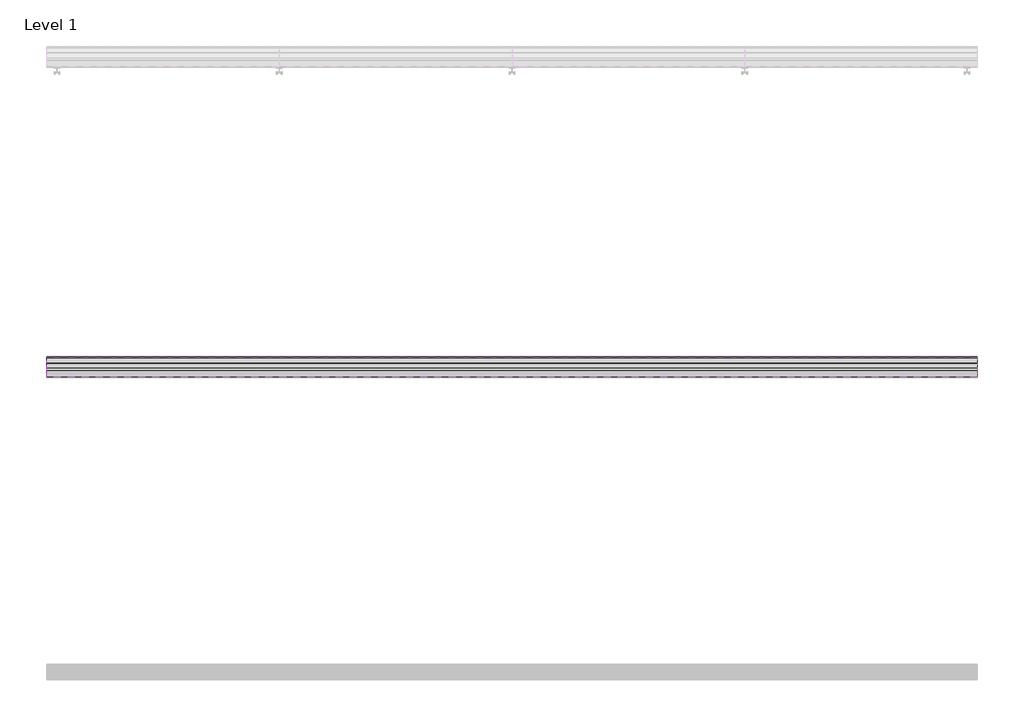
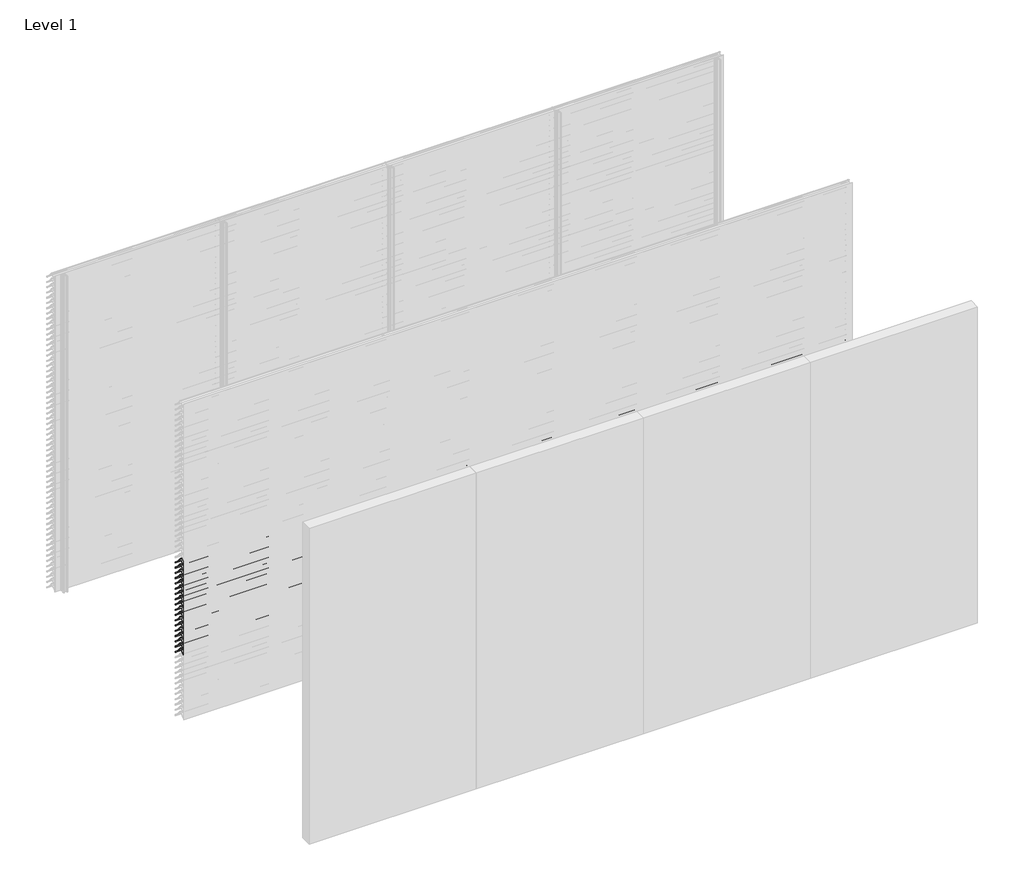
# One storey, part 39 of 173: 18 proxies.
"""IFC4 building model written with IfcOpenShell, lengths in millimetres."""

from ifc_helpers import new_model, si_unit, point, frame, frame_2d, origin, place, context, project, spatial, polyline, circle_curve, trimmed, segment, composite_curve, outline, extrude, element, save

model = new_model("IFC4")

# Units and contexts
model_context = context("Model", 3, world=origin())
ifc_project = project(units=[si_unit("LENGTHUNIT", "METRE", prefix="MILLI")], contexts=[model_context])

# Site, building, storey
site = spatial("IfcSite", under=ifc_project)
building = spatial("IfcBuilding", under=site)
storey = spatial("IfcBuildingStorey", under=building, Name="Level 1", Elevation=0.0)

# Proxies
placement = place(None, origin())
element("IfcBuildingElementProxy", 1, Name="Wall Sweeps", at=placement, inside=storey, context=model_context, shape_type="SweptSolid", body=[
    extrude(outline(composite_curve([segment(polyline([(-43998.0, 1459.1474905), (-43998.0, 1461.6227417)]), True, "CONTINUOUS"), segment(trimmed(circle_curve(frame_2d((-43951.2682172, 1416.2200208)), 65.1557103), [point((-43998.0, 1461.6227417))], [point((-43954.4014323, 1481.3003524))], False, "CARTESIAN"), True, "CONTINUOUS"), segment(polyline([(-43954.4014323, 1481.3003524), (-43934.8315836, 1481.3003524)]), True, "CONTINUOUS"), segment(trimmed(circle_curve(frame_2d((-43732.7329489, 1628.5533172)), 250.0545817), [point((-43934.8315836, 1481.3003524))], [point((-43941.4452143, 1490.8344583))], False, "CARTESIAN"), True, "CONTINUOUS"), segment(trimmed(circle_curve(frame_2d((-43953.2981792, 1485.1737835)), 13.1352966), [point((-43941.4452143, 1490.8344583))], [point((-43953.8171475, 1498.298824))], True, "CARTESIAN"), True, "CONTINUOUS"), segment(polyline([(-43953.8171475, 1498.298824), (-43953.8171475, 1500.0)]), True, "CONTINUOUS"), segment(trimmed(circle_curve(frame_2d((-43953.2981792, 1485.1737835)), 14.8352966), [point((-43953.8171475, 1500.0))], [point((-43939.9637661, 1491.6760487))], False, "CARTESIAN"), True, "CONTINUOUS"), segment(trimmed(circle_curve(frame_2d((-43732.7329489, 1628.5533172)), 248.3545817), [point((-43939.9637661, 1491.6760487))], [point((-43873.8787895, 1424.2059416))], True, "CARTESIAN"), True, "CONTINUOUS"), segment(trimmed(circle_curve(frame_2d((-43883.8147537, 1411.6649442)), 16.0), [point((-43873.8787895, 1424.2059416))], [point((-43867.8648347, 1410.4))], False, "CARTESIAN"), True, "CONTINUOUS"), segment(polyline([(-43867.8648347, 1410.4), (-43869.6712069, 1410.4)]), True, "CONTINUOUS"), segment(trimmed(circle_curve(frame_2d((-43883.8147537, 1411.6649442)), 14.2), [point((-43869.6712069, 1410.4))], [point((-43874.9518628, 1422.7594998))], True, "CARTESIAN"), True, "CONTINUOUS"), segment(trimmed(circle_curve(frame_2d((-43732.7329489, 1628.5533172)), 250.1545817), [point((-43874.9518628, 1422.7594998))], [point((-43933.7064024, 1479.6003524))], False, "CARTESIAN"), True, "CONTINUOUS"), segment(polyline([(-43933.7064024, 1479.6003524), (-43954.3602632, 1479.6003524)]), True, "CONTINUOUS"), segment(trimmed(circle_curve(frame_2d((-43951.2682172, 1416.2200208)), 63.4557103), [point((-43954.3602632, 1479.6003524))], [point((-43998.0, 1459.1474905))], True, "CARTESIAN"), True, "CONTINUOUS")], self_intersect=False)), frame((0.0, 0.0, 0.0), z_axis=(1.0, 0.0, 0.0), x_axis=(0.0, 1.0, 0.0)), (0.0, 0.0, 1.0), 6000.0),
])
element("IfcBuildingElementProxy", 2, Name="Wall Sweeps", at=placement, inside=storey, context=model_context, shape_type="SweptSolid", body=[
    extrude(outline(composite_curve([segment(polyline([(-43998.0, 1409.1474905), (-43998.0, 1411.6227417)]), True, "CONTINUOUS"), segment(trimmed(circle_curve(frame_2d((-43951.2682172, 1366.2200208)), 65.1557103), [point((-43998.0, 1411.6227417))], [point((-43954.4014323, 1431.3003524))], False, "CARTESIAN"), True, "CONTINUOUS"), segment(polyline([(-43954.4014323, 1431.3003524), (-43934.8315836, 1431.3003524)]), True, "CONTINUOUS"), segment(trimmed(circle_curve(frame_2d((-43732.7329489, 1578.5533172)), 250.0545817), [point((-43934.8315836, 1431.3003524))], [point((-43941.4452143, 1440.8344583))], False, "CARTESIAN"), True, "CONTINUOUS"), segment(trimmed(circle_curve(frame_2d((-43953.2981792, 1435.1737835)), 13.1352966), [point((-43941.4452143, 1440.8344583))], [point((-43953.8171475, 1448.298824))], True, "CARTESIAN"), True, "CONTINUOUS"), segment(polyline([(-43953.8171475, 1448.298824), (-43953.8171475, 1450.0)]), True, "CONTINUOUS"), segment(trimmed(circle_curve(frame_2d((-43953.2981792, 1435.1737835)), 14.8352966), [point((-43953.8171475, 1450.0))], [point((-43939.9637661, 1441.6760487))], False, "CARTESIAN"), True, "CONTINUOUS"), segment(trimmed(circle_curve(frame_2d((-43732.7329489, 1578.5533172)), 248.3545817), [point((-43939.9637661, 1441.6760487))], [point((-43873.8787895, 1374.2059416))], True, "CARTESIAN"), True, "CONTINUOUS"), segment(trimmed(circle_curve(frame_2d((-43883.8147537, 1361.6649442)), 16.0), [point((-43873.8787895, 1374.2059416))], [point((-43867.8648347, 1360.4))], False, "CARTESIAN"), True, "CONTINUOUS"), segment(polyline([(-43867.8648347, 1360.4), (-43869.6712069, 1360.4)]), True, "CONTINUOUS"), segment(trimmed(circle_curve(frame_2d((-43883.8147537, 1361.6649442)), 14.2), [point((-43869.6712069, 1360.4))], [point((-43874.9518628, 1372.7594998))], True, "CARTESIAN"), True, "CONTINUOUS"), segment(trimmed(circle_curve(frame_2d((-43732.7329489, 1578.5533172)), 250.1545817), [point((-43874.9518628, 1372.7594998))], [point((-43933.7064024, 1429.6003524))], False, "CARTESIAN"), True, "CONTINUOUS"), segment(polyline([(-43933.7064024, 1429.6003524), (-43954.3602632, 1429.6003524)]), True, "CONTINUOUS"), segment(trimmed(circle_curve(frame_2d((-43951.2682172, 1366.2200208)), 63.4557103), [point((-43954.3602632, 1429.6003524))], [point((-43998.0, 1409.1474905))], True, "CARTESIAN"), True, "CONTINUOUS")], self_intersect=False)), frame((0.0, 0.0, 0.0), z_axis=(1.0, 0.0, 0.0), x_axis=(0.0, 1.0, 0.0)), (0.0, 0.0, 1.0), 6000.0),
])
element("IfcBuildingElementProxy", 3, Name="Wall Sweeps", at=placement, inside=storey, context=model_context, shape_type="SweptSolid", body=[
    extrude(outline(composite_curve([segment(polyline([(-43998.0, 1359.1474905), (-43998.0, 1361.6227417)]), True, "CONTINUOUS"), segment(trimmed(circle_curve(frame_2d((-43951.2682172, 1316.2200208)), 65.1557103), [point((-43998.0, 1361.6227417))], [point((-43954.4014323, 1381.3003524))], False, "CARTESIAN"), True, "CONTINUOUS"), segment(polyline([(-43954.4014323, 1381.3003524), (-43934.8315836, 1381.3003524)]), True, "CONTINUOUS"), segment(trimmed(circle_curve(frame_2d((-43732.7329489, 1528.5533172)), 250.0545817), [point((-43934.8315836, 1381.3003524))], [point((-43941.4452143, 1390.8344583))], False, "CARTESIAN"), True, "CONTINUOUS"), segment(trimmed(circle_curve(frame_2d((-43953.2981792, 1385.1737835)), 13.1352966), [point((-43941.4452143, 1390.8344583))], [point((-43953.8171475, 1398.298824))], True, "CARTESIAN"), True, "CONTINUOUS"), segment(polyline([(-43953.8171475, 1398.298824), (-43953.8171475, 1400.0)]), True, "CONTINUOUS"), segment(trimmed(circle_curve(frame_2d((-43953.2981792, 1385.1737835)), 14.8352966), [point((-43953.8171475, 1400.0))], [point((-43939.9637661, 1391.6760487))], False, "CARTESIAN"), True, "CONTINUOUS"), segment(trimmed(circle_curve(frame_2d((-43732.7329489, 1528.5533172)), 248.3545817), [point((-43939.9637661, 1391.6760487))], [point((-43873.8787895, 1324.2059416))], True, "CARTESIAN"), True, "CONTINUOUS"), segment(trimmed(circle_curve(frame_2d((-43883.8147537, 1311.6649442)), 16.0), [point((-43873.8787895, 1324.2059416))], [point((-43867.8648347, 1310.4))], False, "CARTESIAN"), True, "CONTINUOUS"), segment(polyline([(-43867.8648347, 1310.4), (-43869.6712069, 1310.4)]), True, "CONTINUOUS"), segment(trimmed(circle_curve(frame_2d((-43883.8147537, 1311.6649442)), 14.2), [point((-43869.6712069, 1310.4))], [point((-43874.9518628, 1322.7594998))], True, "CARTESIAN"), True, "CONTINUOUS"), segment(trimmed(circle_curve(frame_2d((-43732.7329489, 1528.5533172)), 250.1545817), [point((-43874.9518628, 1322.7594998))], [point((-43933.7064024, 1379.6003524))], False, "CARTESIAN"), True, "CONTINUOUS"), segment(polyline([(-43933.7064024, 1379.6003524), (-43954.3602632, 1379.6003524)]), True, "CONTINUOUS"), segment(trimmed(circle_curve(frame_2d((-43951.2682172, 1316.2200208)), 63.4557103), [point((-43954.3602632, 1379.6003524))], [point((-43998.0, 1359.1474905))], True, "CARTESIAN"), True, "CONTINUOUS")], self_intersect=False)), frame((0.0, 0.0, 0.0), z_axis=(1.0, 0.0, 0.0), x_axis=(0.0, 1.0, 0.0)), (0.0, 0.0, 1.0), 6000.0),
])
element("IfcBuildingElementProxy", 4, Name="Wall Sweeps", at=placement, inside=storey, context=model_context, shape_type="SweptSolid", body=[
    extrude(outline(composite_curve([segment(polyline([(-43998.0, 1309.1474905), (-43998.0, 1311.6227417)]), True, "CONTINUOUS"), segment(trimmed(circle_curve(frame_2d((-43951.2682172, 1266.2200208)), 65.1557103), [point((-43998.0, 1311.6227417))], [point((-43954.4014323, 1331.3003524))], False, "CARTESIAN"), True, "CONTINUOUS"), segment(polyline([(-43954.4014323, 1331.3003524), (-43934.8315836, 1331.3003524)]), True, "CONTINUOUS"), segment(trimmed(circle_curve(frame_2d((-43732.7329489, 1478.5533172)), 250.0545817), [point((-43934.8315836, 1331.3003524))], [point((-43941.4452143, 1340.8344583))], False, "CARTESIAN"), True, "CONTINUOUS"), segment(trimmed(circle_curve(frame_2d((-43953.2981792, 1335.1737835)), 13.1352966), [point((-43941.4452143, 1340.8344583))], [point((-43953.8171475, 1348.298824))], True, "CARTESIAN"), True, "CONTINUOUS"), segment(polyline([(-43953.8171475, 1348.298824), (-43953.8171475, 1350.0)]), True, "CONTINUOUS"), segment(trimmed(circle_curve(frame_2d((-43953.2981792, 1335.1737835)), 14.8352966), [point((-43953.8171475, 1350.0))], [point((-43939.9637661, 1341.6760487))], False, "CARTESIAN"), True, "CONTINUOUS"), segment(trimmed(circle_curve(frame_2d((-43732.7329489, 1478.5533172)), 248.3545817), [point((-43939.9637661, 1341.6760487))], [point((-43873.8787895, 1274.2059416))], True, "CARTESIAN"), True, "CONTINUOUS"), segment(trimmed(circle_curve(frame_2d((-43883.8147537, 1261.6649442)), 16.0), [point((-43873.8787895, 1274.2059416))], [point((-43867.8648347, 1260.4))], False, "CARTESIAN"), True, "CONTINUOUS"), segment(polyline([(-43867.8648347, 1260.4), (-43869.6712069, 1260.4)]), True, "CONTINUOUS"), segment(trimmed(circle_curve(frame_2d((-43883.8147537, 1261.6649442)), 14.2), [point((-43869.6712069, 1260.4))], [point((-43874.9518628, 1272.7594998))], True, "CARTESIAN"), True, "CONTINUOUS"), segment(trimmed(circle_curve(frame_2d((-43732.7329489, 1478.5533172)), 250.1545817), [point((-43874.9518628, 1272.7594998))], [point((-43933.7064024, 1329.6003524))], False, "CARTESIAN"), True, "CONTINUOUS"), segment(polyline([(-43933.7064024, 1329.6003524), (-43954.3602632, 1329.6003524)]), True, "CONTINUOUS"), segment(trimmed(circle_curve(frame_2d((-43951.2682172, 1266.2200208)), 63.4557103), [point((-43954.3602632, 1329.6003524))], [point((-43998.0, 1309.1474905))], True, "CARTESIAN"), True, "CONTINUOUS")], self_intersect=False)), frame((0.0, 0.0, 0.0), z_axis=(1.0, 0.0, 0.0), x_axis=(0.0, 1.0, 0.0)), (0.0, 0.0, 1.0), 6000.0),
])
element("IfcBuildingElementProxy", 5, Name="Wall Sweeps", at=placement, inside=storey, context=model_context, shape_type="SweptSolid", body=[
    extrude(outline(composite_curve([segment(polyline([(-43998.0, 1259.1474905), (-43998.0, 1261.6227417)]), True, "CONTINUOUS"), segment(trimmed(circle_curve(frame_2d((-43951.2682172, 1216.2200208)), 65.1557103), [point((-43998.0, 1261.6227417))], [point((-43954.4014323, 1281.3003524))], False, "CARTESIAN"), True, "CONTINUOUS"), segment(polyline([(-43954.4014323, 1281.3003524), (-43934.8315836, 1281.3003524)]), True, "CONTINUOUS"), segment(trimmed(circle_curve(frame_2d((-43732.7329489, 1428.5533172)), 250.0545817), [point((-43934.8315836, 1281.3003524))], [point((-43941.4452143, 1290.8344583))], False, "CARTESIAN"), True, "CONTINUOUS"), segment(trimmed(circle_curve(frame_2d((-43953.2981792, 1285.1737835)), 13.1352966), [point((-43941.4452143, 1290.8344583))], [point((-43953.8171475, 1298.298824))], True, "CARTESIAN"), True, "CONTINUOUS"), segment(polyline([(-43953.8171475, 1298.298824), (-43953.8171475, 1300.0)]), True, "CONTINUOUS"), segment(trimmed(circle_curve(frame_2d((-43953.2981792, 1285.1737835)), 14.8352966), [point((-43953.8171475, 1300.0))], [point((-43939.9637661, 1291.6760487))], False, "CARTESIAN"), True, "CONTINUOUS"), segment(trimmed(circle_curve(frame_2d((-43732.7329489, 1428.5533172)), 248.3545817), [point((-43939.9637661, 1291.6760487))], [point((-43873.8787895, 1224.2059416))], True, "CARTESIAN"), True, "CONTINUOUS"), segment(trimmed(circle_curve(frame_2d((-43883.8147537, 1211.6649442)), 16.0), [point((-43873.8787895, 1224.2059416))], [point((-43867.8648347, 1210.4))], False, "CARTESIAN"), True, "CONTINUOUS"), segment(polyline([(-43867.8648347, 1210.4), (-43869.6712069, 1210.4)]), True, "CONTINUOUS"), segment(trimmed(circle_curve(frame_2d((-43883.8147537, 1211.6649442)), 14.2), [point((-43869.6712069, 1210.4))], [point((-43874.9518628, 1222.7594998))], True, "CARTESIAN"), True, "CONTINUOUS"), segment(trimmed(circle_curve(frame_2d((-43732.7329489, 1428.5533172)), 250.1545817), [point((-43874.9518628, 1222.7594998))], [point((-43933.7064024, 1279.6003524))], False, "CARTESIAN"), True, "CONTINUOUS"), segment(polyline([(-43933.7064024, 1279.6003524), (-43954.3602632, 1279.6003524)]), True, "CONTINUOUS"), segment(trimmed(circle_curve(frame_2d((-43951.2682172, 1216.2200208)), 63.4557103), [point((-43954.3602632, 1279.6003524))], [point((-43998.0, 1259.1474905))], True, "CARTESIAN"), True, "CONTINUOUS")], self_intersect=False)), frame((0.0, 0.0, 0.0), z_axis=(1.0, 0.0, 0.0), x_axis=(0.0, 1.0, 0.0)), (0.0, 0.0, 1.0), 6000.0),
])
element("IfcBuildingElementProxy", 6, Name="Wall Sweeps", at=placement, inside=storey, context=model_context, shape_type="SweptSolid", body=[
    extrude(outline(composite_curve([segment(polyline([(-43998.0, 1209.1474905), (-43998.0, 1211.6227417)]), True, "CONTINUOUS"), segment(trimmed(circle_curve(frame_2d((-43951.2682172, 1166.2200208)), 65.1557103), [point((-43998.0, 1211.6227417))], [point((-43954.4014323, 1231.3003524))], False, "CARTESIAN"), True, "CONTINUOUS"), segment(polyline([(-43954.4014323, 1231.3003524), (-43934.8315836, 1231.3003524)]), True, "CONTINUOUS"), segment(trimmed(circle_curve(frame_2d((-43732.7329489, 1378.5533172)), 250.0545817), [point((-43934.8315836, 1231.3003524))], [point((-43941.4452143, 1240.8344583))], False, "CARTESIAN"), True, "CONTINUOUS"), segment(trimmed(circle_curve(frame_2d((-43953.2981792, 1235.1737835)), 13.1352966), [point((-43941.4452143, 1240.8344583))], [point((-43953.8171475, 1248.298824))], True, "CARTESIAN"), True, "CONTINUOUS"), segment(polyline([(-43953.8171475, 1248.298824), (-43953.8171475, 1250.0)]), True, "CONTINUOUS"), segment(trimmed(circle_curve(frame_2d((-43953.2981792, 1235.1737835)), 14.8352966), [point((-43953.8171475, 1250.0))], [point((-43939.9637661, 1241.6760487))], False, "CARTESIAN"), True, "CONTINUOUS"), segment(trimmed(circle_curve(frame_2d((-43732.7329489, 1378.5533172)), 248.3545817), [point((-43939.9637661, 1241.6760487))], [point((-43873.8787895, 1174.2059416))], True, "CARTESIAN"), True, "CONTINUOUS"), segment(trimmed(circle_curve(frame_2d((-43883.8147537, 1161.6649442)), 16.0), [point((-43873.8787895, 1174.2059416))], [point((-43867.8648347, 1160.4))], False, "CARTESIAN"), True, "CONTINUOUS"), segment(polyline([(-43867.8648347, 1160.4), (-43869.6712069, 1160.4)]), True, "CONTINUOUS"), segment(trimmed(circle_curve(frame_2d((-43883.8147537, 1161.6649442)), 14.2), [point((-43869.6712069, 1160.4))], [point((-43874.9518628, 1172.7594998))], True, "CARTESIAN"), True, "CONTINUOUS"), segment(trimmed(circle_curve(frame_2d((-43732.7329489, 1378.5533172)), 250.1545817), [point((-43874.9518628, 1172.7594998))], [point((-43933.7064024, 1229.6003524))], False, "CARTESIAN"), True, "CONTINUOUS"), segment(polyline([(-43933.7064024, 1229.6003524), (-43954.3602632, 1229.6003524)]), True, "CONTINUOUS"), segment(trimmed(circle_curve(frame_2d((-43951.2682172, 1166.2200208)), 63.4557103), [point((-43954.3602632, 1229.6003524))], [point((-43998.0, 1209.1474905))], True, "CARTESIAN"), True, "CONTINUOUS")], self_intersect=False)), frame((0.0, 0.0, 0.0), z_axis=(1.0, 0.0, 0.0), x_axis=(0.0, 1.0, 0.0)), (0.0, 0.0, 1.0), 6000.0),
])
element("IfcBuildingElementProxy", 7, Name="Wall Sweeps", at=placement, inside=storey, context=model_context, shape_type="SweptSolid", body=[
    extrude(outline(composite_curve([segment(polyline([(-43998.0, 1159.1474905), (-43998.0, 1161.6227417)]), True, "CONTINUOUS"), segment(trimmed(circle_curve(frame_2d((-43951.2682172, 1116.2200208)), 65.1557103), [point((-43998.0, 1161.6227417))], [point((-43954.4014323, 1181.3003524))], False, "CARTESIAN"), True, "CONTINUOUS"), segment(polyline([(-43954.4014323, 1181.3003524), (-43934.8315836, 1181.3003524)]), True, "CONTINUOUS"), segment(trimmed(circle_curve(frame_2d((-43732.7329489, 1328.5533172)), 250.0545817), [point((-43934.8315836, 1181.3003524))], [point((-43941.4452143, 1190.8344583))], False, "CARTESIAN"), True, "CONTINUOUS"), segment(trimmed(circle_curve(frame_2d((-43953.2981792, 1185.1737835)), 13.1352966), [point((-43941.4452143, 1190.8344583))], [point((-43953.8171475, 1198.298824))], True, "CARTESIAN"), True, "CONTINUOUS"), segment(polyline([(-43953.8171475, 1198.298824), (-43953.8171475, 1200.0)]), True, "CONTINUOUS"), segment(trimmed(circle_curve(frame_2d((-43953.2981792, 1185.1737835)), 14.8352966), [point((-43953.8171475, 1200.0))], [point((-43939.9637661, 1191.6760487))], False, "CARTESIAN"), True, "CONTINUOUS"), segment(trimmed(circle_curve(frame_2d((-43732.7329489, 1328.5533172)), 248.3545817), [point((-43939.9637661, 1191.6760487))], [point((-43873.8787895, 1124.2059416))], True, "CARTESIAN"), True, "CONTINUOUS"), segment(trimmed(circle_curve(frame_2d((-43883.8147537, 1111.6649442)), 16.0), [point((-43873.8787895, 1124.2059416))], [point((-43867.8648347, 1110.4))], False, "CARTESIAN"), True, "CONTINUOUS"), segment(polyline([(-43867.8648347, 1110.4), (-43869.6712069, 1110.4)]), True, "CONTINUOUS"), segment(trimmed(circle_curve(frame_2d((-43883.8147537, 1111.6649442)), 14.2), [point((-43869.6712069, 1110.4))], [point((-43874.9518628, 1122.7594998))], True, "CARTESIAN"), True, "CONTINUOUS"), segment(trimmed(circle_curve(frame_2d((-43732.7329489, 1328.5533172)), 250.1545817), [point((-43874.9518628, 1122.7594998))], [point((-43933.7064024, 1179.6003524))], False, "CARTESIAN"), True, "CONTINUOUS"), segment(polyline([(-43933.7064024, 1179.6003524), (-43954.3602632, 1179.6003524)]), True, "CONTINUOUS"), segment(trimmed(circle_curve(frame_2d((-43951.2682172, 1116.2200208)), 63.4557103), [point((-43954.3602632, 1179.6003524))], [point((-43998.0, 1159.1474905))], True, "CARTESIAN"), True, "CONTINUOUS")], self_intersect=False)), frame((0.0, 0.0, 0.0), z_axis=(1.0, 0.0, 0.0), x_axis=(0.0, 1.0, 0.0)), (0.0, 0.0, 1.0), 6000.0),
])
element("IfcBuildingElementProxy", 8, Name="Wall Sweeps", at=placement, inside=storey, context=model_context, shape_type="SweptSolid", body=[
    extrude(outline(composite_curve([segment(polyline([(-43998.0, 1109.1474905), (-43998.0, 1111.6227417)]), True, "CONTINUOUS"), segment(trimmed(circle_curve(frame_2d((-43951.2682172, 1066.2200208)), 65.1557103), [point((-43998.0, 1111.6227417))], [point((-43954.4014323, 1131.3003524))], False, "CARTESIAN"), True, "CONTINUOUS"), segment(polyline([(-43954.4014323, 1131.3003524), (-43934.8315836, 1131.3003524)]), True, "CONTINUOUS"), segment(trimmed(circle_curve(frame_2d((-43732.7329489, 1278.5533172)), 250.0545817), [point((-43934.8315836, 1131.3003524))], [point((-43941.4452143, 1140.8344583))], False, "CARTESIAN"), True, "CONTINUOUS"), segment(trimmed(circle_curve(frame_2d((-43953.2981792, 1135.1737835)), 13.1352966), [point((-43941.4452143, 1140.8344583))], [point((-43953.8171475, 1148.298824))], True, "CARTESIAN"), True, "CONTINUOUS"), segment(polyline([(-43953.8171475, 1148.298824), (-43953.8171475, 1150.0)]), True, "CONTINUOUS"), segment(trimmed(circle_curve(frame_2d((-43953.2981792, 1135.1737835)), 14.8352966), [point((-43953.8171475, 1150.0))], [point((-43939.9637661, 1141.6760487))], False, "CARTESIAN"), True, "CONTINUOUS"), segment(trimmed(circle_curve(frame_2d((-43732.7329489, 1278.5533172)), 248.3545817), [point((-43939.9637661, 1141.6760487))], [point((-43873.8787895, 1074.2059416))], True, "CARTESIAN"), True, "CONTINUOUS"), segment(trimmed(circle_curve(frame_2d((-43883.8147537, 1061.6649442)), 16.0), [point((-43873.8787895, 1074.2059416))], [point((-43867.8648347, 1060.4))], False, "CARTESIAN"), True, "CONTINUOUS"), segment(polyline([(-43867.8648347, 1060.4), (-43869.6712069, 1060.4)]), True, "CONTINUOUS"), segment(trimmed(circle_curve(frame_2d((-43883.8147537, 1061.6649442)), 14.2), [point((-43869.6712069, 1060.4))], [point((-43874.9518628, 1072.7594998))], True, "CARTESIAN"), True, "CONTINUOUS"), segment(trimmed(circle_curve(frame_2d((-43732.7329489, 1278.5533172)), 250.1545817), [point((-43874.9518628, 1072.7594998))], [point((-43933.7064024, 1129.6003524))], False, "CARTESIAN"), True, "CONTINUOUS"), segment(polyline([(-43933.7064024, 1129.6003524), (-43954.3602632, 1129.6003524)]), True, "CONTINUOUS"), segment(trimmed(circle_curve(frame_2d((-43951.2682172, 1066.2200208)), 63.4557103), [point((-43954.3602632, 1129.6003524))], [point((-43998.0, 1109.1474905))], True, "CARTESIAN"), True, "CONTINUOUS")], self_intersect=False)), frame((0.0, 0.0, 0.0), z_axis=(1.0, 0.0, 0.0), x_axis=(0.0, 1.0, 0.0)), (0.0, 0.0, 1.0), 6000.0),
])
element("IfcBuildingElementProxy", 9, Name="Wall Sweeps", at=placement, inside=storey, context=model_context, shape_type="SweptSolid", body=[
    extrude(outline(composite_curve([segment(polyline([(-43998.0, 1059.1474905), (-43998.0, 1061.6227417)]), True, "CONTINUOUS"), segment(trimmed(circle_curve(frame_2d((-43951.2682172, 1016.2200208)), 65.1557103), [point((-43998.0, 1061.6227417))], [point((-43954.4014323, 1081.3003524))], False, "CARTESIAN"), True, "CONTINUOUS"), segment(polyline([(-43954.4014323, 1081.3003524), (-43934.8315836, 1081.3003524)]), True, "CONTINUOUS"), segment(trimmed(circle_curve(frame_2d((-43732.7329489, 1228.5533172)), 250.0545817), [point((-43934.8315836, 1081.3003524))], [point((-43941.4452143, 1090.8344583))], False, "CARTESIAN"), True, "CONTINUOUS"), segment(trimmed(circle_curve(frame_2d((-43953.2981792, 1085.1737835)), 13.1352966), [point((-43941.4452143, 1090.8344583))], [point((-43953.8171475, 1098.298824))], True, "CARTESIAN"), True, "CONTINUOUS"), segment(polyline([(-43953.8171475, 1098.298824), (-43953.8171475, 1100.0)]), True, "CONTINUOUS"), segment(trimmed(circle_curve(frame_2d((-43953.2981792, 1085.1737835)), 14.8352966), [point((-43953.8171475, 1100.0))], [point((-43939.9637661, 1091.6760487))], False, "CARTESIAN"), True, "CONTINUOUS"), segment(trimmed(circle_curve(frame_2d((-43732.7329489, 1228.5533172)), 248.3545817), [point((-43939.9637661, 1091.6760487))], [point((-43873.8787895, 1024.2059416))], True, "CARTESIAN"), True, "CONTINUOUS"), segment(trimmed(circle_curve(frame_2d((-43883.8147537, 1011.6649442)), 16.0), [point((-43873.8787895, 1024.2059416))], [point((-43867.8648347, 1010.4))], False, "CARTESIAN"), True, "CONTINUOUS"), segment(polyline([(-43867.8648347, 1010.4), (-43869.6712069, 1010.4)]), True, "CONTINUOUS"), segment(trimmed(circle_curve(frame_2d((-43883.8147537, 1011.6649442)), 14.2), [point((-43869.6712069, 1010.4))], [point((-43874.9518628, 1022.7594998))], True, "CARTESIAN"), True, "CONTINUOUS"), segment(trimmed(circle_curve(frame_2d((-43732.7329489, 1228.5533172)), 250.1545817), [point((-43874.9518628, 1022.7594998))], [point((-43933.7064024, 1079.6003524))], False, "CARTESIAN"), True, "CONTINUOUS"), segment(polyline([(-43933.7064024, 1079.6003524), (-43954.3602632, 1079.6003524)]), True, "CONTINUOUS"), segment(trimmed(circle_curve(frame_2d((-43951.2682172, 1016.2200208)), 63.4557103), [point((-43954.3602632, 1079.6003524))], [point((-43998.0, 1059.1474905))], True, "CARTESIAN"), True, "CONTINUOUS")], self_intersect=False)), frame((0.0, 0.0, 0.0), z_axis=(1.0, 0.0, 0.0), x_axis=(0.0, 1.0, 0.0)), (0.0, 0.0, 1.0), 6000.0),
])
element("IfcBuildingElementProxy", 10, Name="Wall Sweeps", at=placement, inside=storey, context=model_context, shape_type="SweptSolid", body=[
    extrude(outline(composite_curve([segment(polyline([(-43998.0, 1009.1474905), (-43998.0, 1011.6227417)]), True, "CONTINUOUS"), segment(trimmed(circle_curve(frame_2d((-43951.2682172, 966.2200208)), 65.1557103), [point((-43998.0, 1011.6227417))], [point((-43954.4014323, 1031.3003524))], False, "CARTESIAN"), True, "CONTINUOUS"), segment(polyline([(-43954.4014323, 1031.3003524), (-43934.8315836, 1031.3003524)]), True, "CONTINUOUS"), segment(trimmed(circle_curve(frame_2d((-43732.7329489, 1178.5533172)), 250.0545817), [point((-43934.8315836, 1031.3003524))], [point((-43941.4452143, 1040.8344583))], False, "CARTESIAN"), True, "CONTINUOUS"), segment(trimmed(circle_curve(frame_2d((-43953.2981792, 1035.1737835)), 13.1352966), [point((-43941.4452143, 1040.8344583))], [point((-43953.8171475, 1048.298824))], True, "CARTESIAN"), True, "CONTINUOUS"), segment(polyline([(-43953.8171475, 1048.298824), (-43953.8171475, 1050.0)]), True, "CONTINUOUS"), segment(trimmed(circle_curve(frame_2d((-43953.2981792, 1035.1737835)), 14.8352966), [point((-43953.8171475, 1050.0))], [point((-43939.9637661, 1041.6760487))], False, "CARTESIAN"), True, "CONTINUOUS"), segment(trimmed(circle_curve(frame_2d((-43732.7329489, 1178.5533172)), 248.3545817), [point((-43939.9637661, 1041.6760487))], [point((-43873.8787895, 974.2059416))], True, "CARTESIAN"), True, "CONTINUOUS"), segment(trimmed(circle_curve(frame_2d((-43883.8147537, 961.6649442)), 16.0), [point((-43873.8787895, 974.2059416))], [point((-43867.8648347, 960.4))], False, "CARTESIAN"), True, "CONTINUOUS"), segment(polyline([(-43867.8648347, 960.4), (-43869.6712069, 960.4)]), True, "CONTINUOUS"), segment(trimmed(circle_curve(frame_2d((-43883.8147537, 961.6649442)), 14.2), [point((-43869.6712069, 960.4))], [point((-43874.9518628, 972.7594998))], True, "CARTESIAN"), True, "CONTINUOUS"), segment(trimmed(circle_curve(frame_2d((-43732.7329489, 1178.5533172)), 250.1545817), [point((-43874.9518628, 972.7594998))], [point((-43933.7064024, 1029.6003524))], False, "CARTESIAN"), True, "CONTINUOUS"), segment(polyline([(-43933.7064024, 1029.6003524), (-43954.3602632, 1029.6003524)]), True, "CONTINUOUS"), segment(trimmed(circle_curve(frame_2d((-43951.2682172, 966.2200208)), 63.4557103), [point((-43954.3602632, 1029.6003524))], [point((-43998.0, 1009.1474905))], True, "CARTESIAN"), True, "CONTINUOUS")], self_intersect=False)), frame((0.0, 0.0, 0.0), z_axis=(1.0, 0.0, 0.0), x_axis=(0.0, 1.0, 0.0)), (0.0, 0.0, 1.0), 6000.0),
])
element("IfcBuildingElementProxy", 11, Name="Wall Sweeps", at=placement, inside=storey, context=model_context, shape_type="SweptSolid", body=[
    extrude(outline(composite_curve([segment(polyline([(-43998.0, 959.1474905), (-43998.0, 961.6227417)]), True, "CONTINUOUS"), segment(trimmed(circle_curve(frame_2d((-43951.2682172, 916.2200208)), 65.1557103), [point((-43998.0, 961.6227417))], [point((-43954.4014323, 981.3003524))], False, "CARTESIAN"), True, "CONTINUOUS"), segment(polyline([(-43954.4014323, 981.3003524), (-43934.8315836, 981.3003524)]), True, "CONTINUOUS"), segment(trimmed(circle_curve(frame_2d((-43732.7329489, 1128.5533172)), 250.0545817), [point((-43934.8315836, 981.3003524))], [point((-43941.4452143, 990.8344583))], False, "CARTESIAN"), True, "CONTINUOUS"), segment(trimmed(circle_curve(frame_2d((-43953.2981792, 985.1737835)), 13.1352966), [point((-43941.4452143, 990.8344583))], [point((-43953.8171475, 998.298824))], True, "CARTESIAN"), True, "CONTINUOUS"), segment(polyline([(-43953.8171475, 998.298824), (-43953.8171475, 1000.0)]), True, "CONTINUOUS"), segment(trimmed(circle_curve(frame_2d((-43953.2981792, 985.1737835)), 14.8352966), [point((-43953.8171475, 1000.0))], [point((-43939.9637661, 991.6760487))], False, "CARTESIAN"), True, "CONTINUOUS"), segment(trimmed(circle_curve(frame_2d((-43732.7329489, 1128.5533172)), 248.3545817), [point((-43939.9637661, 991.6760487))], [point((-43873.8787895, 924.2059416))], True, "CARTESIAN"), True, "CONTINUOUS"), segment(trimmed(circle_curve(frame_2d((-43883.8147537, 911.6649442)), 16.0), [point((-43873.8787895, 924.2059416))], [point((-43867.8648347, 910.4))], False, "CARTESIAN"), True, "CONTINUOUS"), segment(polyline([(-43867.8648347, 910.4), (-43869.6712069, 910.4)]), True, "CONTINUOUS"), segment(trimmed(circle_curve(frame_2d((-43883.8147537, 911.6649442)), 14.2), [point((-43869.6712069, 910.4))], [point((-43874.9518628, 922.7594998))], True, "CARTESIAN"), True, "CONTINUOUS"), segment(trimmed(circle_curve(frame_2d((-43732.7329489, 1128.5533172)), 250.1545817), [point((-43874.9518628, 922.7594998))], [point((-43933.7064024, 979.6003524))], False, "CARTESIAN"), True, "CONTINUOUS"), segment(polyline([(-43933.7064024, 979.6003524), (-43954.3602632, 979.6003524)]), True, "CONTINUOUS"), segment(trimmed(circle_curve(frame_2d((-43951.2682172, 916.2200208)), 63.4557103), [point((-43954.3602632, 979.6003524))], [point((-43998.0, 959.1474905))], True, "CARTESIAN"), True, "CONTINUOUS")], self_intersect=False)), frame((0.0, 0.0, 0.0), z_axis=(1.0, 0.0, 0.0), x_axis=(0.0, 1.0, 0.0)), (0.0, 0.0, 1.0), 6000.0),
])
element("IfcBuildingElementProxy", 12, Name="Wall Sweeps", at=placement, inside=storey, context=model_context, shape_type="SweptSolid", body=[
    extrude(outline(composite_curve([segment(polyline([(-43998.0, 909.1474905), (-43998.0, 911.6227417)]), True, "CONTINUOUS"), segment(trimmed(circle_curve(frame_2d((-43951.2682172, 866.2200208)), 65.1557103), [point((-43998.0, 911.6227417))], [point((-43954.4014323, 931.3003524))], False, "CARTESIAN"), True, "CONTINUOUS"), segment(polyline([(-43954.4014323, 931.3003524), (-43934.8315836, 931.3003524)]), True, "CONTINUOUS"), segment(trimmed(circle_curve(frame_2d((-43732.7329489, 1078.5533172)), 250.0545817), [point((-43934.8315836, 931.3003524))], [point((-43941.4452143, 940.8344583))], False, "CARTESIAN"), True, "CONTINUOUS"), segment(trimmed(circle_curve(frame_2d((-43953.2981792, 935.1737835)), 13.1352966), [point((-43941.4452143, 940.8344583))], [point((-43953.8171475, 948.298824))], True, "CARTESIAN"), True, "CONTINUOUS"), segment(polyline([(-43953.8171475, 948.298824), (-43953.8171475, 950.0)]), True, "CONTINUOUS"), segment(trimmed(circle_curve(frame_2d((-43953.2981792, 935.1737835)), 14.8352966), [point((-43953.8171475, 950.0))], [point((-43939.9637661, 941.6760487))], False, "CARTESIAN"), True, "CONTINUOUS"), segment(trimmed(circle_curve(frame_2d((-43732.7329489, 1078.5533172)), 248.3545817), [point((-43939.9637661, 941.6760487))], [point((-43873.8787895, 874.2059416))], True, "CARTESIAN"), True, "CONTINUOUS"), segment(trimmed(circle_curve(frame_2d((-43883.8147537, 861.6649442)), 16.0), [point((-43873.8787895, 874.2059416))], [point((-43867.8648347, 860.4))], False, "CARTESIAN"), True, "CONTINUOUS"), segment(polyline([(-43867.8648347, 860.4), (-43869.6712069, 860.4)]), True, "CONTINUOUS"), segment(trimmed(circle_curve(frame_2d((-43883.8147537, 861.6649442)), 14.2), [point((-43869.6712069, 860.4))], [point((-43874.9518628, 872.7594998))], True, "CARTESIAN"), True, "CONTINUOUS"), segment(trimmed(circle_curve(frame_2d((-43732.7329489, 1078.5533172)), 250.1545817), [point((-43874.9518628, 872.7594998))], [point((-43933.7064024, 929.6003524))], False, "CARTESIAN"), True, "CONTINUOUS"), segment(polyline([(-43933.7064024, 929.6003524), (-43954.3602632, 929.6003524)]), True, "CONTINUOUS"), segment(trimmed(circle_curve(frame_2d((-43951.2682172, 866.2200208)), 63.4557103), [point((-43954.3602632, 929.6003524))], [point((-43998.0, 909.1474905))], True, "CARTESIAN"), True, "CONTINUOUS")], self_intersect=False)), frame((0.0, 0.0, 0.0), z_axis=(1.0, 0.0, 0.0), x_axis=(0.0, 1.0, 0.0)), (0.0, 0.0, 1.0), 6000.0),
])
element("IfcBuildingElementProxy", 13, Name="Wall Sweeps", at=placement, inside=storey, context=model_context, shape_type="SweptSolid", body=[
    extrude(outline(composite_curve([segment(polyline([(-43998.0, 859.1474905), (-43998.0, 861.6227417)]), True, "CONTINUOUS"), segment(trimmed(circle_curve(frame_2d((-43951.2682172, 816.2200208)), 65.1557103), [point((-43998.0, 861.6227417))], [point((-43954.4014323, 881.3003524))], False, "CARTESIAN"), True, "CONTINUOUS"), segment(polyline([(-43954.4014323, 881.3003524), (-43934.8315836, 881.3003524)]), True, "CONTINUOUS"), segment(trimmed(circle_curve(frame_2d((-43732.7329489, 1028.5533172)), 250.0545817), [point((-43934.8315836, 881.3003524))], [point((-43941.4452143, 890.8344583))], False, "CARTESIAN"), True, "CONTINUOUS"), segment(trimmed(circle_curve(frame_2d((-43953.2981792, 885.1737835)), 13.1352966), [point((-43941.4452143, 890.8344583))], [point((-43953.8171475, 898.298824))], True, "CARTESIAN"), True, "CONTINUOUS"), segment(polyline([(-43953.8171475, 898.298824), (-43953.8171475, 900.0)]), True, "CONTINUOUS"), segment(trimmed(circle_curve(frame_2d((-43953.2981792, 885.1737835)), 14.8352966), [point((-43953.8171475, 900.0))], [point((-43939.9637661, 891.6760487))], False, "CARTESIAN"), True, "CONTINUOUS"), segment(trimmed(circle_curve(frame_2d((-43732.7329489, 1028.5533172)), 248.3545817), [point((-43939.9637661, 891.6760487))], [point((-43873.8787895, 824.2059416))], True, "CARTESIAN"), True, "CONTINUOUS"), segment(trimmed(circle_curve(frame_2d((-43883.8147537, 811.6649442)), 16.0), [point((-43873.8787895, 824.2059416))], [point((-43867.8648347, 810.4))], False, "CARTESIAN"), True, "CONTINUOUS"), segment(polyline([(-43867.8648347, 810.4), (-43869.6712069, 810.4)]), True, "CONTINUOUS"), segment(trimmed(circle_curve(frame_2d((-43883.8147537, 811.6649442)), 14.2), [point((-43869.6712069, 810.4))], [point((-43874.9518628, 822.7594998))], True, "CARTESIAN"), True, "CONTINUOUS"), segment(trimmed(circle_curve(frame_2d((-43732.7329489, 1028.5533172)), 250.1545817), [point((-43874.9518628, 822.7594998))], [point((-43933.7064024, 879.6003524))], False, "CARTESIAN"), True, "CONTINUOUS"), segment(polyline([(-43933.7064024, 879.6003524), (-43954.3602632, 879.6003524)]), True, "CONTINUOUS"), segment(trimmed(circle_curve(frame_2d((-43951.2682172, 816.2200208)), 63.4557103), [point((-43954.3602632, 879.6003524))], [point((-43998.0, 859.1474905))], True, "CARTESIAN"), True, "CONTINUOUS")], self_intersect=False)), frame((0.0, 0.0, 0.0), z_axis=(1.0, 0.0, 0.0), x_axis=(0.0, 1.0, 0.0)), (0.0, 0.0, 1.0), 6000.0),
])
element("IfcBuildingElementProxy", 14, Name="Wall Sweeps", at=placement, inside=storey, context=model_context, shape_type="SweptSolid", body=[
    extrude(outline(composite_curve([segment(polyline([(-43998.0, 809.1474905), (-43998.0, 811.6227417)]), True, "CONTINUOUS"), segment(trimmed(circle_curve(frame_2d((-43951.2682172, 766.2200208)), 65.1557103), [point((-43998.0, 811.6227417))], [point((-43954.4014323, 831.3003524))], False, "CARTESIAN"), True, "CONTINUOUS"), segment(polyline([(-43954.4014323, 831.3003524), (-43934.8315836, 831.3003524)]), True, "CONTINUOUS"), segment(trimmed(circle_curve(frame_2d((-43732.7329489, 978.5533172)), 250.0545817), [point((-43934.8315836, 831.3003524))], [point((-43941.4452143, 840.8344583))], False, "CARTESIAN"), True, "CONTINUOUS"), segment(trimmed(circle_curve(frame_2d((-43953.2981792, 835.1737835)), 13.1352966), [point((-43941.4452143, 840.8344583))], [point((-43953.8171475, 848.298824))], True, "CARTESIAN"), True, "CONTINUOUS"), segment(polyline([(-43953.8171475, 848.298824), (-43953.8171475, 850.0)]), True, "CONTINUOUS"), segment(trimmed(circle_curve(frame_2d((-43953.2981792, 835.1737835)), 14.8352966), [point((-43953.8171475, 850.0))], [point((-43939.9637661, 841.6760487))], False, "CARTESIAN"), True, "CONTINUOUS"), segment(trimmed(circle_curve(frame_2d((-43732.7329489, 978.5533172)), 248.3545817), [point((-43939.9637661, 841.6760487))], [point((-43873.8787895, 774.2059416))], True, "CARTESIAN"), True, "CONTINUOUS"), segment(trimmed(circle_curve(frame_2d((-43883.8147537, 761.6649442)), 16.0), [point((-43873.8787895, 774.2059416))], [point((-43867.8648347, 760.4))], False, "CARTESIAN"), True, "CONTINUOUS"), segment(polyline([(-43867.8648347, 760.4), (-43869.6712069, 760.4)]), True, "CONTINUOUS"), segment(trimmed(circle_curve(frame_2d((-43883.8147537, 761.6649442)), 14.2), [point((-43869.6712069, 760.4))], [point((-43874.9518628, 772.7594998))], True, "CARTESIAN"), True, "CONTINUOUS"), segment(trimmed(circle_curve(frame_2d((-43732.7329489, 978.5533172)), 250.1545817), [point((-43874.9518628, 772.7594998))], [point((-43933.7064024, 829.6003524))], False, "CARTESIAN"), True, "CONTINUOUS"), segment(polyline([(-43933.7064024, 829.6003524), (-43954.3602632, 829.6003524)]), True, "CONTINUOUS"), segment(trimmed(circle_curve(frame_2d((-43951.2682172, 766.2200208)), 63.4557103), [point((-43954.3602632, 829.6003524))], [point((-43998.0, 809.1474905))], True, "CARTESIAN"), True, "CONTINUOUS")], self_intersect=False)), frame((0.0, 0.0, 0.0), z_axis=(1.0, 0.0, 0.0), x_axis=(0.0, 1.0, 0.0)), (0.0, 0.0, 1.0), 6000.0),
])
element("IfcBuildingElementProxy", 15, Name="Wall Sweeps", at=placement, inside=storey, context=model_context, shape_type="SweptSolid", body=[
    extrude(outline(composite_curve([segment(polyline([(-43998.0, 759.1474905), (-43998.0, 761.6227417)]), True, "CONTINUOUS"), segment(trimmed(circle_curve(frame_2d((-43951.2682172, 716.2200208)), 65.1557103), [point((-43998.0, 761.6227417))], [point((-43954.4014323, 781.3003524))], False, "CARTESIAN"), True, "CONTINUOUS"), segment(polyline([(-43954.4014323, 781.3003524), (-43934.8315836, 781.3003524)]), True, "CONTINUOUS"), segment(trimmed(circle_curve(frame_2d((-43732.7329489, 928.5533172)), 250.0545817), [point((-43934.8315836, 781.3003524))], [point((-43941.4452143, 790.8344583))], False, "CARTESIAN"), True, "CONTINUOUS"), segment(trimmed(circle_curve(frame_2d((-43953.2981792, 785.1737835)), 13.1352966), [point((-43941.4452143, 790.8344583))], [point((-43953.8171475, 798.298824))], True, "CARTESIAN"), True, "CONTINUOUS"), segment(polyline([(-43953.8171475, 798.298824), (-43953.8171475, 800.0)]), True, "CONTINUOUS"), segment(trimmed(circle_curve(frame_2d((-43953.2981792, 785.1737835)), 14.8352966), [point((-43953.8171475, 800.0))], [point((-43939.9637661, 791.6760487))], False, "CARTESIAN"), True, "CONTINUOUS"), segment(trimmed(circle_curve(frame_2d((-43732.7329489, 928.5533172)), 248.3545817), [point((-43939.9637661, 791.6760487))], [point((-43873.8787895, 724.2059416))], True, "CARTESIAN"), True, "CONTINUOUS"), segment(trimmed(circle_curve(frame_2d((-43883.8147537, 711.6649442)), 16.0), [point((-43873.8787895, 724.2059416))], [point((-43867.8648347, 710.4))], False, "CARTESIAN"), True, "CONTINUOUS"), segment(polyline([(-43867.8648347, 710.4), (-43869.6712069, 710.4)]), True, "CONTINUOUS"), segment(trimmed(circle_curve(frame_2d((-43883.8147537, 711.6649442)), 14.2), [point((-43869.6712069, 710.4))], [point((-43874.9518628, 722.7594998))], True, "CARTESIAN"), True, "CONTINUOUS"), segment(trimmed(circle_curve(frame_2d((-43732.7329489, 928.5533172)), 250.1545817), [point((-43874.9518628, 722.7594998))], [point((-43933.7064024, 779.6003524))], False, "CARTESIAN"), True, "CONTINUOUS"), segment(polyline([(-43933.7064024, 779.6003524), (-43954.3602632, 779.6003524)]), True, "CONTINUOUS"), segment(trimmed(circle_curve(frame_2d((-43951.2682172, 716.2200208)), 63.4557103), [point((-43954.3602632, 779.6003524))], [point((-43998.0, 759.1474905))], True, "CARTESIAN"), True, "CONTINUOUS")], self_intersect=False)), frame((0.0, 0.0, 0.0), z_axis=(1.0, 0.0, 0.0), x_axis=(0.0, 1.0, 0.0)), (0.0, 0.0, 1.0), 6000.0),
])
element("IfcBuildingElementProxy", 16, Name="Wall Sweeps", at=placement, inside=storey, context=model_context, shape_type="SweptSolid", body=[
    extrude(outline(composite_curve([segment(polyline([(-43998.0, 709.1474905), (-43998.0, 711.6227417)]), True, "CONTINUOUS"), segment(trimmed(circle_curve(frame_2d((-43951.2682172, 666.2200208)), 65.1557103), [point((-43998.0, 711.6227417))], [point((-43954.4014323, 731.3003524))], False, "CARTESIAN"), True, "CONTINUOUS"), segment(polyline([(-43954.4014323, 731.3003524), (-43934.8315836, 731.3003524)]), True, "CONTINUOUS"), segment(trimmed(circle_curve(frame_2d((-43732.7329489, 878.5533172)), 250.0545817), [point((-43934.8315836, 731.3003524))], [point((-43941.4452143, 740.8344583))], False, "CARTESIAN"), True, "CONTINUOUS"), segment(trimmed(circle_curve(frame_2d((-43953.2981792, 735.1737835)), 13.1352966), [point((-43941.4452143, 740.8344583))], [point((-43953.8171475, 748.298824))], True, "CARTESIAN"), True, "CONTINUOUS"), segment(polyline([(-43953.8171475, 748.298824), (-43953.8171475, 750.0)]), True, "CONTINUOUS"), segment(trimmed(circle_curve(frame_2d((-43953.2981792, 735.1737835)), 14.8352966), [point((-43953.8171475, 750.0))], [point((-43939.9637661, 741.6760487))], False, "CARTESIAN"), True, "CONTINUOUS"), segment(trimmed(circle_curve(frame_2d((-43732.7329489, 878.5533172)), 248.3545817), [point((-43939.9637661, 741.6760487))], [point((-43873.8787895, 674.2059416))], True, "CARTESIAN"), True, "CONTINUOUS"), segment(trimmed(circle_curve(frame_2d((-43883.8147537, 661.6649442)), 16.0), [point((-43873.8787895, 674.2059416))], [point((-43867.8648347, 660.4))], False, "CARTESIAN"), True, "CONTINUOUS"), segment(polyline([(-43867.8648347, 660.4), (-43869.6712069, 660.4)]), True, "CONTINUOUS"), segment(trimmed(circle_curve(frame_2d((-43883.8147537, 661.6649442)), 14.2), [point((-43869.6712069, 660.4))], [point((-43874.9518628, 672.7594998))], True, "CARTESIAN"), True, "CONTINUOUS"), segment(trimmed(circle_curve(frame_2d((-43732.7329489, 878.5533172)), 250.1545817), [point((-43874.9518628, 672.7594998))], [point((-43933.7064024, 729.6003524))], False, "CARTESIAN"), True, "CONTINUOUS"), segment(polyline([(-43933.7064024, 729.6003524), (-43954.3602632, 729.6003524)]), True, "CONTINUOUS"), segment(trimmed(circle_curve(frame_2d((-43951.2682172, 666.2200208)), 63.4557103), [point((-43954.3602632, 729.6003524))], [point((-43998.0, 709.1474905))], True, "CARTESIAN"), True, "CONTINUOUS")], self_intersect=False)), frame((0.0, 0.0, 0.0), z_axis=(1.0, 0.0, 0.0), x_axis=(0.0, 1.0, 0.0)), (0.0, 0.0, 1.0), 6000.0),
])
element("IfcBuildingElementProxy", 17, Name="Wall Sweeps", at=placement, inside=storey, context=model_context, shape_type="SweptSolid", body=[
    extrude(outline(composite_curve([segment(polyline([(-43998.0, 659.1474905), (-43998.0, 661.6227417)]), True, "CONTINUOUS"), segment(trimmed(circle_curve(frame_2d((-43951.2682172, 616.2200208)), 65.1557103), [point((-43998.0, 661.6227417))], [point((-43954.4014323, 681.3003524))], False, "CARTESIAN"), True, "CONTINUOUS"), segment(polyline([(-43954.4014323, 681.3003524), (-43934.8315836, 681.3003524)]), True, "CONTINUOUS"), segment(trimmed(circle_curve(frame_2d((-43732.7329489, 828.5533172)), 250.0545817), [point((-43934.8315836, 681.3003524))], [point((-43941.4452143, 690.8344583))], False, "CARTESIAN"), True, "CONTINUOUS"), segment(trimmed(circle_curve(frame_2d((-43953.2981792, 685.1737835)), 13.1352966), [point((-43941.4452143, 690.8344583))], [point((-43953.8171475, 698.298824))], True, "CARTESIAN"), True, "CONTINUOUS"), segment(polyline([(-43953.8171475, 698.298824), (-43953.8171475, 700.0)]), True, "CONTINUOUS"), segment(trimmed(circle_curve(frame_2d((-43953.2981792, 685.1737835)), 14.8352966), [point((-43953.8171475, 700.0))], [point((-43939.9637661, 691.6760487))], False, "CARTESIAN"), True, "CONTINUOUS"), segment(trimmed(circle_curve(frame_2d((-43732.7329489, 828.5533172)), 248.3545817), [point((-43939.9637661, 691.6760487))], [point((-43873.8787895, 624.2059416))], True, "CARTESIAN"), True, "CONTINUOUS"), segment(trimmed(circle_curve(frame_2d((-43883.8147537, 611.6649442)), 16.0), [point((-43873.8787895, 624.2059416))], [point((-43867.8648347, 610.4))], False, "CARTESIAN"), True, "CONTINUOUS"), segment(polyline([(-43867.8648347, 610.4), (-43869.6712069, 610.4)]), True, "CONTINUOUS"), segment(trimmed(circle_curve(frame_2d((-43883.8147537, 611.6649442)), 14.2), [point((-43869.6712069, 610.4))], [point((-43874.9518628, 622.7594998))], True, "CARTESIAN"), True, "CONTINUOUS"), segment(trimmed(circle_curve(frame_2d((-43732.7329489, 828.5533172)), 250.1545817), [point((-43874.9518628, 622.7594998))], [point((-43933.7064024, 679.6003524))], False, "CARTESIAN"), True, "CONTINUOUS"), segment(polyline([(-43933.7064024, 679.6003524), (-43954.3602632, 679.6003524)]), True, "CONTINUOUS"), segment(trimmed(circle_curve(frame_2d((-43951.2682172, 616.2200208)), 63.4557103), [point((-43954.3602632, 679.6003524))], [point((-43998.0, 659.1474905))], True, "CARTESIAN"), True, "CONTINUOUS")], self_intersect=False)), frame((0.0, 0.0, 0.0), z_axis=(1.0, 0.0, 0.0), x_axis=(0.0, 1.0, 0.0)), (0.0, 0.0, 1.0), 6000.0),
])
element("IfcBuildingElementProxy", 18, Name="Wall Sweeps", at=placement, inside=storey, context=model_context, shape_type="SweptSolid", body=[
    extrude(outline(composite_curve([segment(polyline([(-43998.0, 609.1474905), (-43998.0, 611.6227417)]), True, "CONTINUOUS"), segment(trimmed(circle_curve(frame_2d((-43951.2682172, 566.2200208)), 65.1557103), [point((-43998.0, 611.6227417))], [point((-43954.4014323, 631.3003524))], False, "CARTESIAN"), True, "CONTINUOUS"), segment(polyline([(-43954.4014323, 631.3003524), (-43934.8315836, 631.3003524)]), True, "CONTINUOUS"), segment(trimmed(circle_curve(frame_2d((-43732.7329489, 778.5533172)), 250.0545817), [point((-43934.8315836, 631.3003524))], [point((-43941.4452143, 640.8344583))], False, "CARTESIAN"), True, "CONTINUOUS"), segment(trimmed(circle_curve(frame_2d((-43953.2981792, 635.1737835)), 13.1352966), [point((-43941.4452143, 640.8344583))], [point((-43953.8171475, 648.298824))], True, "CARTESIAN"), True, "CONTINUOUS"), segment(polyline([(-43953.8171475, 648.298824), (-43953.8171475, 650.0)]), True, "CONTINUOUS"), segment(trimmed(circle_curve(frame_2d((-43953.2981792, 635.1737835)), 14.8352966), [point((-43953.8171475, 650.0))], [point((-43939.9637661, 641.6760487))], False, "CARTESIAN"), True, "CONTINUOUS"), segment(trimmed(circle_curve(frame_2d((-43732.7329489, 778.5533172)), 248.3545817), [point((-43939.9637661, 641.6760487))], [point((-43873.8787895, 574.2059416))], True, "CARTESIAN"), True, "CONTINUOUS"), segment(trimmed(circle_curve(frame_2d((-43883.8147537, 561.6649442)), 16.0), [point((-43873.8787895, 574.2059416))], [point((-43867.8648347, 560.4))], False, "CARTESIAN"), True, "CONTINUOUS"), segment(polyline([(-43867.8648347, 560.4), (-43869.6712069, 560.4)]), True, "CONTINUOUS"), segment(trimmed(circle_curve(frame_2d((-43883.8147537, 561.6649442)), 14.2), [point((-43869.6712069, 560.4))], [point((-43874.9518628, 572.7594998))], True, "CARTESIAN"), True, "CONTINUOUS"), segment(trimmed(circle_curve(frame_2d((-43732.7329489, 778.5533172)), 250.1545817), [point((-43874.9518628, 572.7594998))], [point((-43933.7064024, 629.6003524))], False, "CARTESIAN"), True, "CONTINUOUS"), segment(polyline([(-43933.7064024, 629.6003524), (-43954.3602632, 629.6003524)]), True, "CONTINUOUS"), segment(trimmed(circle_curve(frame_2d((-43951.2682172, 566.2200208)), 63.4557103), [point((-43954.3602632, 629.6003524))], [point((-43998.0, 609.1474905))], True, "CARTESIAN"), True, "CONTINUOUS")], self_intersect=False)), frame((0.0, 0.0, 0.0), z_axis=(1.0, 0.0, 0.0), x_axis=(0.0, 1.0, 0.0)), (0.0, 0.0, 1.0), 6000.0),
])

save(model, "model.ifc")
